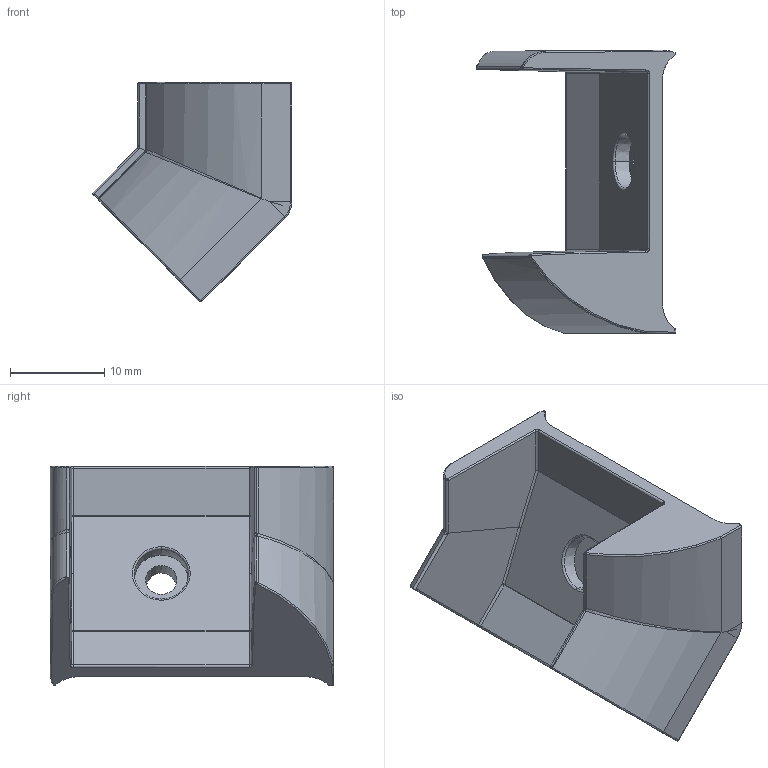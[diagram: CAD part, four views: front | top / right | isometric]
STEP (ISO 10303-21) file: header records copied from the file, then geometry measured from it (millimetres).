
FILE_DESCRIPTION (( 'STEP AP203' ), '1' );
FILE_NAME ('013.030.125.STEP', '2020-09-21T07:06:39', ( '' ), ( '' ), 'SwSTEP 2.0', 'SolidWorks 2018', '' );
FILE_SCHEMA (( 'CONFIG_CONTROL_DESIGN' ));
Length unit declared in the file: millimetre
Products named in the file (1): 013.030.125
Bounding box: 21.16 x 30.01 x 23.21 mm (x, y, z)
Volume: 2870.3 mm3; surface area: 3115.6 mm2
Topology: 1 solids, 1 shells, 160 faces, 378 edges, 213 vertices
Faces by surface type: cylinder 69, plane 30, torus 26, bspline 17, sphere 10, cone 8
Entity records: 5049 total; most frequent: CARTESIAN_POINT 1538, ORIENTED_EDGE 738, DIRECTION 709, EDGE_CURVE 369, AXIS2_PLACEMENT_3D 279, VERTEX_POINT 211, EDGE_LOOP 162, FACE_OUTER_BOUND 160
